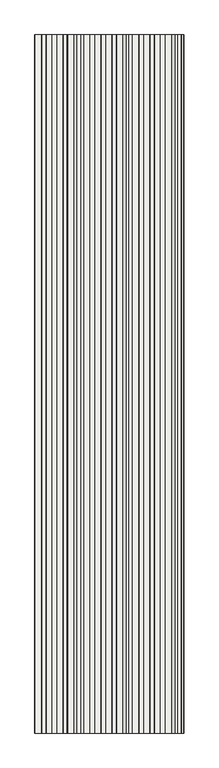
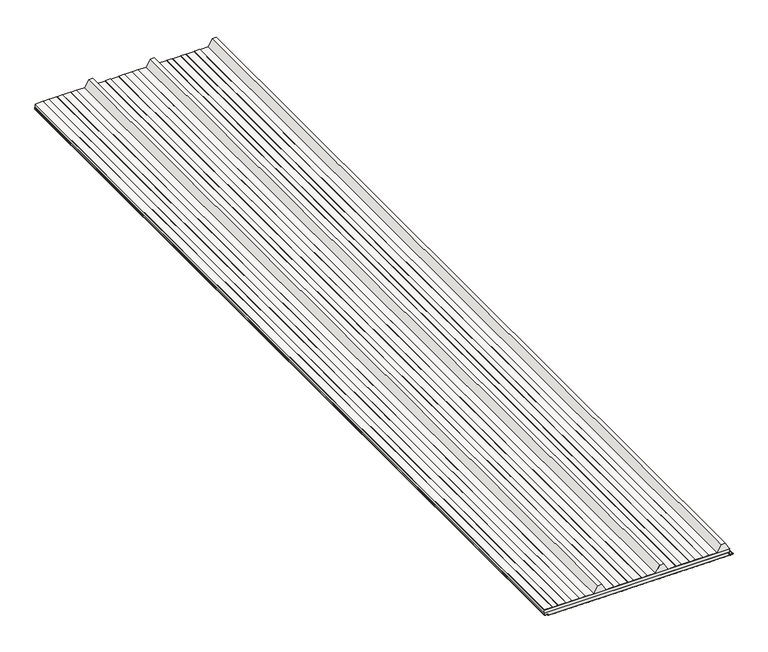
"""IFC4 building model written with IfcOpenShell, lengths in millimetres: covering geometry, Płyta warstwowa dachowa SPR CORE PIR (pojedynczy arkusz) : -."""

import ifcopenshell
import ifcopenshell.guid

model = None  # the IFC model being written
_history = None  # IfcOwnerHistory: only IFC2X3 demands one
_inside = {}  # id of a spatial element -> (the spatial element, [elements in it])
_under = {}  # id of a project, library or spatial element -> (it, [spatial elements below it])
_declared = {}  # id of a project -> (the project, [libraries it declares])
_typed = {}  # id of a type object -> (the type object, [elements of that type])
_made_of = {}  # id of a material, layer set ... -> (it, [elements and type objects made of it])


def new_model(schema):
    """Start an empty IFC model of exactly this schema.

    Asked for "IFC4X3", IfcOpenShell would pick the latest addendum, in which some entities
    have other attributes; the version numbers below select the first issue.
    IFC2X3 requires an IfcOwnerHistory on every rooted entity: one is made here for all.
    """
    global model, _history
    if schema == "IFC4X3":
        model = ifcopenshell.file(schema_version=(4, 3, 0, 0))
    else:
        model = ifcopenshell.file(schema=schema)
    _inside.clear()
    _under.clear()
    _declared.clear()
    _typed.clear()
    _made_of.clear()
    _history = None
    if model.schema == "IFC2X3":
        org = make("IfcOrganization", Name="unknown")
        user = make(
            "IfcPersonAndOrganization",
            ThePerson=make("IfcPerson", FamilyName="unknown"),
            TheOrganization=org,
        )
        app = make(
            "IfcApplication",
            ApplicationDeveloper=org,
            Version="unknown",
            ApplicationFullName="unknown",
            ApplicationIdentifier="unknown",
        )
        _history = make(
            "IfcOwnerHistory",
            OwningUser=user,
            OwningApplication=app,
            ChangeAction="ADDED",
            CreationDate=0,
        )
    return model


def make(cls, **values):
    """One entity of the class cls with the attributes given. An attribute that is None is left unset."""
    return model.create_entity(
        cls, **{name: value for name, value in values.items() if value is not None}
    )


def rooted(cls, **values):
    """An entity with a GlobalId (a new one), such as an element, a storey or a relation."""
    return make(cls, GlobalId=ifcopenshell.guid.new(), OwnerHistory=_history, **values)


def si_unit(unit_type, name, prefix=None):
    """IfcSIUnit, for example si_unit("LENGTHUNIT", "METRE", prefix="MILLI")."""
    return make("IfcSIUnit", UnitType=unit_type, Prefix=prefix, Name=name)


def assignment(units):
    """IfcUnitAssignment: the units of a project."""
    return None if units is None else make("IfcUnitAssignment", Units=units)


def point(xyz):
    """IfcCartesianPoint."""
    return None if xyz is None else make("IfcCartesianPoint", Coordinates=xyz)


def direction(xyz):
    """IfcDirection."""
    return None if xyz is None else make("IfcDirection", DirectionRatios=xyz)


def frame(location, z_axis=None, x_axis=None):
    """IfcAxis2Placement3D, a coordinate frame: its origin and axes. An axis left out is left unset."""
    return make(
        "IfcAxis2Placement3D",
        Location=point(location),
        Axis=direction(z_axis),
        RefDirection=direction(x_axis),
    )


def frame_2d(location, x_axis=None):
    """IfcAxis2Placement2D, a coordinate frame in the plane: its origin and x axis."""
    return make(
        "IfcAxis2Placement2D", Location=point(location), RefDirection=direction(x_axis)
    )


def origin():
    """The frame at (0, 0, 0) with its axes left unset."""
    return frame((0.0, 0.0, 0.0))


def place(relative_to, where):
    """IfcLocalPlacement: puts the frame where relative to a parent placement (None: the world)."""
    return make(
        "IfcLocalPlacement", PlacementRelTo=relative_to, RelativePlacement=where
    )


def context(
    kind, dimensions, precision=None, world=None, true_north=None, identifier=None
):
    """IfcGeometricRepresentationContext, for example the 3D "Model" context."""
    return make(
        "IfcGeometricRepresentationContext",
        ContextIdentifier=identifier,
        ContextType=kind,
        CoordinateSpaceDimension=dimensions,
        Precision=precision,
        WorldCoordinateSystem=world,
        TrueNorth=true_north,
    )


def project(units=None, contexts=None):
    """IfcProject with its units and contexts."""
    return rooted(
        "IfcProject",
        Name="project",
        RepresentationContexts=contexts,
        UnitsInContext=assignment(units),
    )


def spatial(cls, under=None, at=None, **own):
    """A site, building, storey or space (cls), placed at a placement, below another one or the project."""
    s = rooted(cls, ObjectPlacement=at, **own)
    if under is not None:
        _under.setdefault(under.id(), (under, []))[1].append(s)
    return s


def polyline(points):
    """IfcPolyline through the points."""
    return make("IfcPolyline", Points=[point(p) for p in points])


def circle_curve(where, radius):
    """IfcCircle in the frame where."""
    return make("IfcCircle", Position=where, Radius=radius)


def trimmed(basis, trim1, trim2, sense, master):
    """IfcTrimmedCurve: the piece of a basis curve between two trims."""
    return make(
        "IfcTrimmedCurve",
        BasisCurve=basis,
        Trim1=trim1,
        Trim2=trim2,
        SenseAgreement=sense,
        MasterRepresentation=master,
    )


def segment(curve, same_sense, transition):
    """IfcCompositeCurveSegment."""
    return make(
        "IfcCompositeCurveSegment",
        Transition=transition,
        SameSense=same_sense,
        ParentCurve=curve,
    )


def composite_curve(segments, self_intersect=None):
    """IfcCompositeCurve: segments joined end to end."""
    return make("IfcCompositeCurve", Segments=segments, SelfIntersect=self_intersect)


def outline(outer, holes=None, kind="AREA"):
    """IfcArbitraryClosedProfileDef: a profile drawn as a closed curve; with holes, ...WithVoids."""
    if holes is None:
        return make("IfcArbitraryClosedProfileDef", ProfileType=kind, OuterCurve=outer)
    return make(
        "IfcArbitraryProfileDefWithVoids",
        ProfileType=kind,
        OuterCurve=outer,
        InnerCurves=holes,
    )


def extrude(swept, where, along, depth):
    """IfcExtrudedAreaSolid: the profile swept, set in the frame where, extruded along a direction by depth."""
    return make(
        "IfcExtrudedAreaSolid",
        SweptArea=swept,
        Position=where,
        ExtrudedDirection=direction(along),
        Depth=depth,
    )


def shape(context_of_items, identifier, shape_type, items):
    """IfcShapeRepresentation: the items that make up one representation, for example the "Body"."""
    return make(
        "IfcShapeRepresentation",
        ContextOfItems=context_of_items,
        RepresentationIdentifier=identifier,
        RepresentationType=shape_type,
        Items=items,
    )


def source(mapping_origin, context_of_items, identifier, shape_type, items):
    """IfcRepresentationMap: a shape defined once, which mapped items show again and again."""
    return make(
        "IfcRepresentationMap",
        MappingOrigin=mapping_origin,
        MappedRepresentation=shape(context_of_items, identifier, shape_type, items),
    )


def transform(
    local_origin,
    x_axis=None,
    y_axis=None,
    z_axis=None,
    scale=None,
    scale2=None,
    scale3=None,
    uniform=True,
):
    """IfcCartesianTransformationOperator3D, or its non-uniform kind. x_axis, y_axis, z_axis: its Axis1, 2, 3."""
    if uniform:
        return make(
            "IfcCartesianTransformationOperator3D",
            Axis1=direction(x_axis),
            Axis2=direction(y_axis),
            LocalOrigin=point(local_origin),
            Scale=scale,
            Axis3=direction(z_axis),
        )
    return make(
        "IfcCartesianTransformationOperator3DnonUniform",
        Axis1=direction(x_axis),
        Axis2=direction(y_axis),
        LocalOrigin=point(local_origin),
        Scale=scale,
        Axis3=direction(z_axis),
        Scale2=scale2,
        Scale3=scale3,
    )


def mapped(mapping_source, mapping_target):
    """IfcMappedItem: shows the shape of a source again, moved by a transform."""
    return make(
        "IfcMappedItem", MappingSource=mapping_source, MappingTarget=mapping_target
    )


def made_of(thing, what):
    """Note that an element or type object is made of a material, layer set ...; save() writes the relation."""
    if what is not None:
        _made_of.setdefault(what.id(), (what, []))[1].append(thing)
    return thing


def element(
    cls,
    number,
    at=None,
    inside=None,
    cuts=None,
    type_object=None,
    material=None,
    context=None,
    identifier="Body",
    shape_type=None,
    held_by="IfcProductDefinitionShape",
    body=None,
    shapes=None,
    **own,
):
    """One element of the class cls, such as IfcWall. Its Tag is "e" and its number.

    at: its placement. inside: the storey or other place that contains it. cuts: it is an
    opening in that element (IfcRelVoidsElement). A single representation is given by context,
    identifier, shape_type and body (its items); several are given by shapes. held_by: the class
    of the entity that holds the representations. save() writes the other relations.
    """
    e = rooted(cls, Tag="e%d" % number, ObjectPlacement=at, **own)
    if body is not None:
        shapes = [shape(context, identifier, shape_type, body)]
    if shapes is not None:
        e.Representation = make(held_by, Representations=shapes)
    if inside is not None:
        _inside.setdefault(inside.id(), (inside, []))[1].append(e)
    if cuts is not None:
        rooted(
            "IfcRelVoidsElement", RelatingBuildingElement=cuts, RelatedOpeningElement=e
        )
    if type_object is not None:
        _typed.setdefault(type_object.id(), (type_object, []))[1].append(e)
    return made_of(e, material)


def aggregate(whole, parts):
    """IfcRelAggregates: a whole, such as a stair, and the parts it consists of."""
    return rooted("IfcRelAggregates", RelatingObject=whole, RelatedObjects=parts)


def save(model, path):
    """Write the relations noted so far, then the file.

    IfcRelAggregates (storeys below a building ...), IfcRelContainedInSpatialStructure (elements
    in a storey), IfcRelDefinesByType, IfcRelAssociatesMaterial and IfcRelDeclares: one each for
    every whole, place, type object, material and project.
    """
    for whole, parts in _under.values():
        aggregate(whole, parts)
    for where, things in _inside.values():
        rooted(
            "IfcRelContainedInSpatialStructure",
            RelatedElements=things,
            RelatingStructure=where,
        )
    for kind, things in _typed.values():
        rooted("IfcRelDefinesByType", RelatedObjects=things, RelatingType=kind)
    for what, things in _made_of.values():
        rooted("IfcRelAssociatesMaterial", RelatedObjects=things, RelatingMaterial=what)
    for by, libraries in _declared.values():
        rooted("IfcRelDeclares", RelatingContext=by, RelatedDefinitions=libraries)
    model.write(path)


def plane_surface(at):
    """IfcPlane: the flat surface through the origin of the frame at, square to its z axis."""
    return make("IfcPlane", Position=at)


def cylinder_surface(at, radius):
    """IfcCylindricalSurface: all points at the distance radius from the z axis of the frame at."""
    return make("IfcCylindricalSurface", Position=at, Radius=radius)


def revolved_surface(curve, axis_point, axis_direction):
    """IfcSurfaceOfRevolution: the curve turned about the line through axis_point along axis_direction."""
    return make(
        "IfcSurfaceOfRevolution",
        SweptCurve=make("IfcArbitraryOpenProfileDef", ProfileType="CURVE", Curve=curve),
        AxisPosition=make("IfcAxis1Placement", Location=point(axis_point), Axis=direction(axis_direction)),
    )


def advanced_brep(points, edges, surfaces, faces):
    """IfcAdvancedBrep: a solid bounded by faces that lie on surfaces and meet in shared edges.

    An edge is (start, end): straight between two places in points (the first is 0);
    or (start, end, curve); or (start, end, curve, False) where it runs against its curve.
    A face is (place in surfaces, loops), or (place, loops, False) where it looks against
    its surface's normal. A loop lists edges by number (the first is 1), with a minus sign
    where the edge is run from its end to its start. The first loop is the outer one.
    """
    corners = [point(p) for p in points]
    vertices = [make("IfcVertexPoint", VertexGeometry=c) for c in corners]
    made = []
    for start, end, *more in edges:
        made.append(
            make(
                "IfcEdgeCurve",
                EdgeStart=vertices[start],
                EdgeEnd=vertices[end],
                EdgeGeometry=more[0] if more else make("IfcPolyline", Points=[corners[start], corners[end]]),
                SameSense=more[1] if len(more) > 1 else True,
            )
        )
    hull = []
    for where, loops, *sense in faces:
        bounds = []
        for j, loop in enumerate(loops):
            ring = [make("IfcOrientedEdge", EdgeElement=made[abs(k) - 1], Orientation=k > 0) for k in loop]
            bounds.append(
                make(
                    "IfcFaceOuterBound" if j == 0 else "IfcFaceBound",
                    Bound=make("IfcEdgeLoop", EdgeList=ring),
                    Orientation=True,
                )
            )
        hull.append(make("IfcAdvancedFace", Bounds=bounds, FaceSurface=surfaces[where], SameSense=sense[0] if sense else True))
    return make("IfcAdvancedBrep", Outer=make("IfcClosedShell", CfsFaces=hull))


def covering_82d6ab88(model_context):
    return source(origin(), model_context, "Body", "SolidModel", [
        extrude(outline(composite_curve([segment(polyline([(-34.4480338, -31.6570556), (-35.0012185, -15.8167119)]), True, "CONTINUOUS"), segment(trimmed(circle_curve(frame_2d((-37.0, -15.8865144)), 2.0), [point((-35.0012185, -15.8167119))], [point((-39.0, -15.8865144))], True, "CARTESIAN"), True, "CONTINUOUS"), segment(polyline([(-39.0, -15.8865144), (-39.0, -35.0), (-40.0, -35.0), (-40.0, -15.8865144)]), True, "CONTINUOUS"), segment(trimmed(circle_curve(frame_2d((-37.0, -15.8865144)), 3.0), [point((-40.0, -15.8865144))], [point((-34.0018277, -15.7818107))], False, "CARTESIAN"), True, "CONTINUOUS"), segment(polyline([(-34.0018277, -15.7818107), (-33.448643, -31.6221543)]), True, "CONTINUOUS"), segment(trimmed(circle_curve(frame_2d((-29.9507754, -31.5)), 3.5), [point((-33.448643, -31.6221543))], [point((-29.9507754, -35.0))], True, "CARTESIAN"), True, "CONTINUOUS"), segment(polyline([(-29.9507754, -35.0), (-19.9507754, -35.0), (-19.9507754, -36.0), (-29.9507754, -36.0)]), True, "CONTINUOUS"), segment(trimmed(circle_curve(frame_2d((-29.9507754, -31.5)), 4.5), [point((-29.9507754, -36.0))], [point((-34.4480338, -31.6570556))], False, "CARTESIAN"), True, "CONTINUOUS")], self_intersect=False)), frame((0.0, -5000.0, 0.0), z_axis=(0.0, 1.0, 0.0), x_axis=(0.0, 0.0, 1.0)), (0.0, 0.0, 1.0), 5000.0),
        extrude(outline(composite_curve([segment(polyline([(-37.0, -1061.3739939), (-34.2, -1061.3739939)]), True, "CONTINUOUS"), segment(trimmed(circle_curve(frame_2d((-34.2, -1063.3739939)), 2.0), [point((-34.2, -1061.3739939))], [point((-32.2012183, -1063.3041949))], False, "CARTESIAN"), True, "CONTINUOUS"), segment(polyline([(-32.2012183, -1063.3041949), (-31.5931411, -1080.7172487)]), True, "CONTINUOUS"), segment(trimmed(circle_curve(frame_2d((-29.094664, -1080.63)), 2.5), [point((-31.5931411, -1080.7172487))], [point((-29.094664, -1083.13))], True, "CARTESIAN"), True, "CONTINUOUS"), segment(polyline([(-29.094664, -1083.13), (-19.1749818, -1083.13), (-19.1749818, -1084.13), (-29.094664, -1084.13)]), True, "CONTINUOUS"), segment(trimmed(circle_curve(frame_2d((-29.094664, -1080.63)), 3.5), [point((-29.094664, -1084.13))], [point((-32.5925319, -1080.7521482))], False, "CARTESIAN"), True, "CONTINUOUS"), segment(polyline([(-32.5925319, -1080.7521482), (-33.2006092, -1063.3390944)]), True, "CONTINUOUS"), segment(trimmed(circle_curve(frame_2d((-34.2, -1063.3739939)), 1.0), [point((-33.2006092, -1063.3390944))], [point((-34.2, -1062.3739939))], True, "CARTESIAN"), True, "CONTINUOUS"), segment(polyline([(-34.2, -1062.3739939), (-37.0, -1062.3739939)]), True, "CONTINUOUS"), segment(trimmed(circle_curve(frame_2d((-37.0, -1059.3739939)), 3.0), [point((-37.0, -1062.3739939))], [point((-40.0, -1059.3739939))], False, "CARTESIAN"), True, "CONTINUOUS"), segment(polyline([(-40.0, -1059.3739939), (-39.0, -1059.3739939)]), True, "CONTINUOUS"), segment(trimmed(circle_curve(frame_2d((-37.0, -1059.3739939)), 2.0), [point((-39.0, -1059.3739939))], [point((-37.0, -1061.3739939))], True, "CARTESIAN"), True, "CONTINUOUS")], self_intersect=False)), frame((0.0, -5000.0, 0.0), z_axis=(0.0, 1.0, 0.0), x_axis=(0.0, 0.0, 1.0)), (0.0, 0.0, 1.0), 5000.0),
        extrude(outline(polyline([(-40.4, -548.3073277), (-39.9954731, -536.4823277), (-40.4, -524.6573277), (-39.9954731, -512.8323277), (-40.4, -501.0073277), (-39.9954731, -489.1823277), (-40.4, -477.3573277), (-39.9954731, -465.5323277), (-40.4, -453.7073277), (-39.9954731, -441.8823277), (-40.4, -430.0573277), (-39.9954731, -418.2323277), (-40.4, -406.4073277), (-39.9954731, -394.5823277), (-40.4, -382.7573277), (-39.9954731, -370.9323277), (-40.4, -359.1073277), (-39.9954731, -347.2823277), (-40.4, -335.4573277), (-39.9954731, -323.6323277), (-40.4, -311.8073277), (-39.9954731, -299.9823277), (-40.4, -288.1573277), (-39.9954731, -276.3323277), (-40.4, -264.5073277), (-39.9954731, -252.6823277), (-40.4, -240.8573277), (-39.9954731, -229.0323277), (-40.4, -217.2073277), (-39.9954731, -205.3823277), (-40.4, -193.5573277), (-39.9954731, -181.7323277), (-40.4, -169.9073277), (-39.9954731, -158.0823277), (-40.4, -146.2573277), (-39.9954731, -134.4323277), (-40.4, -122.6073277), (-39.9954731, -110.7823277), (-40.4, -98.9573277), (-39.9954731, -87.1323277), (-40.4, -75.3073277), (-39.9954731, -63.4823277), (-40.4, -51.6573277), (-39.9954731, -39.8323277), (-40.1607845, -35.0), (-39.0, -35.0), (-39.0, -1059.3769939), (-40.093289, -1059.3769939), (-39.9954731, -1056.5176723), (-40.4, -1044.6926723), (-39.9954731, -1032.8676723), (-40.4, -1021.0426723), (-39.9954731, -1009.2176723), (-40.4, -997.3926723), (-39.9954731, -985.5676723), (-40.4, -973.7426723), (-39.9954731, -961.9176723), (-40.4, -950.0926723), (-39.9954731, -938.2676723), (-40.4, -926.4426723), (-39.9954731, -914.6176723), (-40.4, -902.7926723), (-39.9954731, -890.9676723), (-40.4, -879.1426723), (-39.9954731, -867.3176723), (-40.4, -855.4926723), (-39.9954731, -843.6676723), (-40.4, -831.8426723), (-39.9954731, -820.0176723), (-40.4, -808.1926723), (-39.9954731, -796.3676723), (-40.4, -784.5426723), (-39.9954731, -772.7176723), (-40.4, -760.8926723), (-39.9954731, -749.0676723), (-40.4, -737.2426723), (-39.9954731, -725.4176723), (-40.4, -713.5926723), (-39.9954731, -701.7676723), (-40.4, -689.9426723), (-39.9954731, -678.1176723), (-40.4, -666.2926723), (-39.9954731, -654.4676723), (-40.4, -642.6426723), (-39.9954731, -630.8176723), (-40.4, -618.9926723), (-39.9954731, -607.1676723), (-40.4, -595.3426723), (-39.9954731, -583.5176723), (-40.4, -571.6926723), (-40.0, -560.0), (-40.4, -548.3073277)])), frame((0.0, -5000.0, 0.0), z_axis=(0.0, 1.0, 0.0), x_axis=(0.0, 0.0, 1.0)), (0.0, 0.0, 1.0), 5000.0),
        extrude(outline(polyline([(-1.0, -33.1332395), (0.0, -33.1332395), (0.0, -34.1332395), (40.0, -57.2443504), (40.0, -79.7110315), (0.0, -102.8221424), (0.0, -148.5756209), (1.0, -150.8678342), (1.0, -181.1627485), (0.0, -183.4549619), (0.0, -226.0380205), (1.0, -228.3302338), (1.0, -258.6251481), (0.0, -260.9173615), (0.0, -303.5004201), (1.0, -305.7926334), (1.0, -336.0875477), (0.0, -338.379761), (0.0, -384.1332395), (40.0, -407.2443504), (40.0, -429.7110315), (0.0, -452.8221424), (0.0, -498.5756209), (1.0, -500.8678342), (1.0, -531.1627485), (0.0, -533.4549619), (0.0, -576.0380205), (1.0, -578.3302338), (1.0, -608.6251481), (0.0, -610.9173615), (0.0, -653.5004201), (1.0, -655.7926334), (1.0, -686.0875477), (0.0, -688.379761), (0.0, -734.1332395), (40.0, -757.2443504), (40.0, -779.7110315), (0.0, -802.8221424), (0.0, -848.5756209), (1.0, -850.8678342), (1.0, -881.1627485), (0.0, -883.4549619), (0.0, -926.0380205), (1.0, -928.3302338), (1.0, -958.6251481), (0.0, -960.9173615), (0.0, -1003.5004201), (1.0, -1005.7926334), (1.0, -1036.0875477), (0.0, -1038.379761), (0.0, -1083.133), (-1.0, -1083.133), (-1.0, -33.1332395)])), frame((0.0, -5000.0, 0.0), z_axis=(0.0, 1.0, 0.0), x_axis=(0.0, 0.0, 1.0)), (0.0, 0.0, 1.0), 5000.0),
        advanced_brep(
        [(-35.0, -5000.0, -39.0), (-15.8865144, -5000.0, -39.0), (-15.8167119, -5000.0, -35.0012185), (-31.6570556, -5000.0, -34.4480338), (-36.0, -5000.0, -29.9507754), (-36.0, -5000.0, -20.0), (-1083.133, -5000.0, -20.0), (-1083.133, -5000.0, -29.094664), (-1080.7202487, -5000.0, -31.5931411), (-1063.3071949, -5000.0, -32.2012183), (-1061.3769939, -5000.0, -34.2), (-1061.3769939, -5000.0, -37.0), (-1059.3769939, -5000.0, -39.0), (-15.8865144, 0.0, -39.0), (-35.0, 0.0, -39.0), (-1059.3769939, 0.0, -39.0), (-1061.3769939, 0.0, -37.0), (-1061.3769939, 0.0, -34.2), (-1063.3071949, 0.0, -32.2012183), (-1080.7202487, 0.0, -31.5931411), (-1083.133, 0.0, -29.094664), (-1083.133, 0.0, -20.0), (-36.0, 0.0, -20.0), (-36.0, 0.0, -29.9507754), (-31.6570556, 0.0, -34.4480338), (-15.8167119, 0.0, -35.0012185)],
        [
            (0, 1),
            (1, 2, circle_curve(frame((-15.8865144, -5000.0, -37.0), z_axis=(0.0, -1.0, 0.0), x_axis=(-1.0, 0.0, 0.0)), 2.0)),
            (2, 3),
            (3, 4, circle_curve(frame((-31.5, -5000.0, -29.9507754), z_axis=(0.0, 1.0, 0.0), x_axis=(-1.0, 0.0, 0.0)), 4.5)),
            (4, 5),
            (5, 6),
            (6, 7),
            (7, 8, circle_curve(frame((-1080.633, -5000.0, -29.094664), z_axis=(0.0, -1.0, 0.0), x_axis=(-1.0, 0.0, 0.0)), 2.5)),
            (8, 9),
            (9, 10, circle_curve(frame((-1063.3769939, -5000.0, -34.2), z_axis=(0.0, 1.0, 0.0), x_axis=(-1.0, 0.0, 0.0)), 2.0)),
            (10, 11),
            (11, 12, circle_curve(frame((-1059.3769939, -5000.0, -37.0), z_axis=(0.0, -1.0, 0.0), x_axis=(-1.0, 0.0, 0.0)), 2.0)),
            (12, 0),
            (13, 14),
            (14, 15),
            (15, 16, circle_curve(frame((-1059.3769939, 0.0, -37.0), z_axis=(0.0, 1.0, 0.0), x_axis=(-1.0, 0.0, 0.0)), 2.0)),
            (16, 17),
            (17, 18, circle_curve(frame((-1063.3769939, 0.0, -34.2), z_axis=(0.0, -1.0, 0.0), x_axis=(-1.0, 0.0, 0.0)), 2.0)),
            (18, 19),
            (19, 20, circle_curve(frame((-1080.633, 0.0, -29.094664), z_axis=(0.0, 1.0, 0.0), x_axis=(-1.0, 0.0, 0.0)), 2.5)),
            (20, 21),
            (21, 22),
            (22, 23),
            (23, 24, circle_curve(frame((-31.5, 0.0, -29.9507754), z_axis=(0.0, -1.0, 0.0), x_axis=(-1.0, 0.0, 0.0)), 4.5)),
            (24, 25),
            (25, 13, circle_curve(frame((-15.8865144, 0.0, -37.0), z_axis=(0.0, 1.0, 0.0), x_axis=(-1.0, 0.0, 0.0)), 2.0)),
            (5, 22),
            (21, 6),
            (12, 15),
            (13, 1),
            (3, 24),
            (23, 4),
            (2, 25),
            (7, 20),
            (19, 8),
            (11, 16),
            (10, 17),
            (9, 18),
        ],
        [
            plane_surface(frame((-1085.0, -5000.0, -20.0), z_axis=(0.0, -1.0, 0.0), x_axis=(-1.0, 0.0, 0.0))),
            plane_surface(frame((-1085.0, 0.0, -20.0), z_axis=(0.0, 1.0, 0.0), x_axis=(1.0, 0.0, 0.0))),
            plane_surface(frame((5.0, -5000.0, -20.0), z_axis=(0.0, 0.0, 1.0), x_axis=(0.0, 1.0, 0.0))),
            plane_surface(frame((-1085.0, -5000.0, -39.0), z_axis=(0.0, 0.0, -1.0), x_axis=(0.0, 1.0, 0.0))),
            revolved_surface(polyline([(-36.0, -5000.0, -29.9507754), (-36.0, 0.0, -29.9507754)]), (-31.5, -5000.0, -29.9507754), (0.0, -1.0, 0.0)),
            plane_surface(frame((-31.6570556, -5000.0, -34.4480338), z_axis=(0.034901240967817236, 0.0, 0.9993907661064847), x_axis=(0.0, 1.0, 0.0))),
            cylinder_surface(frame((-15.8865144, -5000.0, -37.0), z_axis=(0.0, 1.0, 0.0), x_axis=(-1.0, 0.0, 0.0)), 2.0),
            plane_surface(frame((-36.0, -5000.0, -1.0), z_axis=(1.0, 0.0, 0.0), x_axis=(0.0, 1.0, 0.0))),
            cylinder_surface(frame((-1080.633, -5000.0, -29.094664), z_axis=(0.0, 1.0, 0.0), x_axis=(-1.0, 0.0, 0.0)), 2.5),
            plane_surface(frame((-1083.133, -5000.0, -29.094664), z_axis=(-1.0, 0.0, 0.0), x_axis=(0.0, 1.0, 0.0))),
            cylinder_surface(frame((-1059.3769939, -5000.0, -37.0), z_axis=(0.0, 1.0, 0.0), x_axis=(-1.0, 0.0, 0.0)), 2.0),
            plane_surface(frame((-1061.3769939, -5000.0, -37.0), z_axis=(-1.0, 0.0, 0.0), x_axis=(0.0, 1.0, 0.0))),
            revolved_surface(polyline([(-1065.3769939, -5000.0, -34.2), (-1065.3769939, 0.0, -34.2)]), (-1063.3769939, -5000.0, -34.2), (0.0, -1.0, 0.0)),
            plane_surface(frame((-1063.3071949, -5000.0, -32.2012183), z_axis=(-0.03489949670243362, 0.0, -0.9993908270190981), x_axis=(0.0, 1.0, 0.0))),
        ],
        [
            (0, [[1, 2, 3, 4, 5, 6, 7, 8, 9, 10, 11, 12, 13]]),
            (1, [[14, 15, 16, 17, 18, 19, 20, 21, 22, 23, 24, 25, 26]]),
            (2, [[27, -22, 28, -6]]),
            (3, [[-1, -13, 29, -15, -14, 30]]),
            (4, [[31, -24, 32, -4]]),
            (5, [[-31, -3, 33, -25]]),
            (6, [[-33, -2, -30, -26]]),
            (7, [[-32, -23, -27, -5]]),
            (8, [[34, -20, 35, -8]]),
            (9, [[-34, -7, -28, -21]]),
            (10, [[36, -16, -29, -12]]),
            (11, [[-36, -11, 37, -17]]),
            (12, [[-37, -10, 38, -18]]),
            (13, [[-35, -19, -38, -9]]),
        ],
    ),
        extrude(outline(polyline([(-36.0, 0.0), (-36.0, -5000.0), (-1083.133, -5000.0), (-1083.133, 0.0), (-36.0, 0.0)])), frame((0.0, 0.0, -20.0), z_axis=(0.0, 0.0, 1.0), x_axis=(1.0, 0.0, 0.0)), (0.0, 0.0, 1.0), 19.0),
    ])


if __name__ == "__main__":
    model = new_model("IFC4")
    model_context = context("Model", 3, world=origin())
    ifc_project = project(units=[si_unit("LENGTHUNIT", "METRE", prefix="MILLI")], contexts=[model_context])
    site = spatial("IfcSite", under=ifc_project)
    building = spatial("IfcBuilding", under=site)
    placement = place(None, origin())
    covering_shape = covering_82d6ab88(model_context)
    element("IfcCovering", 1, ObjectType="Płyta warstwowa dachowa SPR CORE PIR (pojedynczy arkusz) : -", at=placement, inside=building, context=model_context, shape_type="MappedRepresentation", body=[
        mapped(covering_shape, transform((0.0, 0.0, 0.0), x_axis=(1.0, 0.0, 0.0), y_axis=(0.0, 1.0, 0.0), z_axis=(0.0, 0.0, 1.0))),
    ])
    save(model, "model.ifc")
